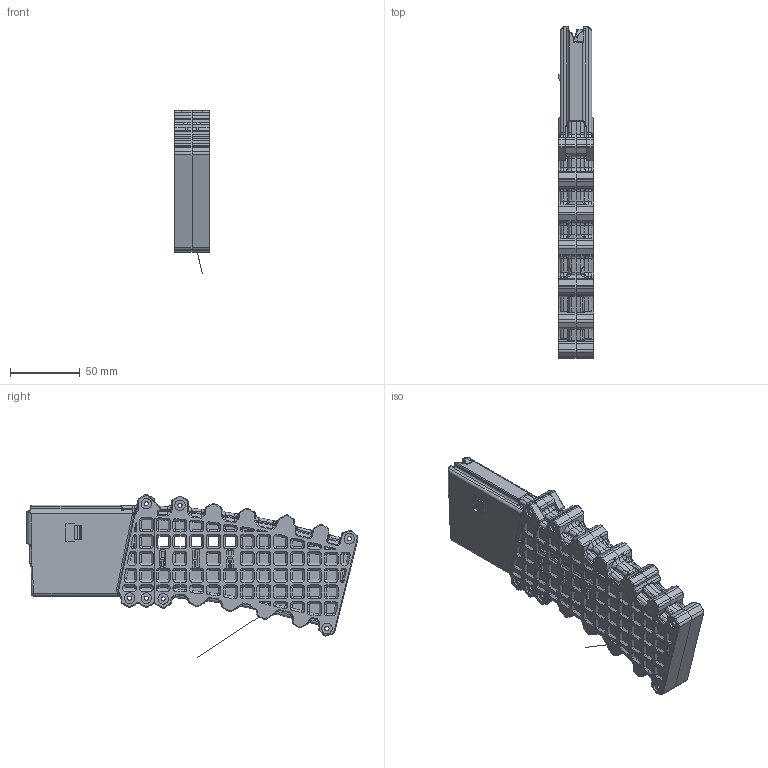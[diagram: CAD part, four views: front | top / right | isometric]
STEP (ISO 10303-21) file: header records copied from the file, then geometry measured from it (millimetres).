
FILE_DESCRIPTION (( 'STEP AP214' ), '1' );
FILE_NAME ('Extended Windowed Magazine.STEP', '2021-05-05T05:41:59', ( '' ), ( '' ), 'SwSTEP 2.0', 'SolidWorks 2020', '' );
FILE_SCHEMA (( 'AUTOMOTIVE_DESIGN' ));
Length unit declared in the file: millimetre
Products named in the file (5): Mag Follower; Extended Windowed Mag Body Bottom Right; Extended Windowed Mag Body Bottom Left; Mag Body Top; Extended Windowed Magazine
Assembly tree (4 placements, depth 2):
  Extended Windowed Magazine
    Mag Body Top
    Mag Follower
    Extended Windowed Mag Body Bottom Left
    Extended Windowed Mag Body Bottom Right
Bounding box: 25.5 x 237.2 x 116.49 mm (x, y, z)
Volume: 142869.7 mm3; surface area: 101229.6 mm2
Topology: 4 solids, 4 shells, 4227 faces, 10921 edges, 6732 vertices
Faces by surface type: plane 1373, cylinder 1041, bspline 876, cone 670, torus 224, sphere 43
Entity records: 161519 total; most frequent: CARTESIAN_POINT 64571, ORIENTED_EDGE 21562, DIRECTION 18616, EDGE_CURVE 10781, AXIS2_PLACEMENT_3D 6743, VERTEX_POINT 6723, LINE 5130, VECTOR 5130
